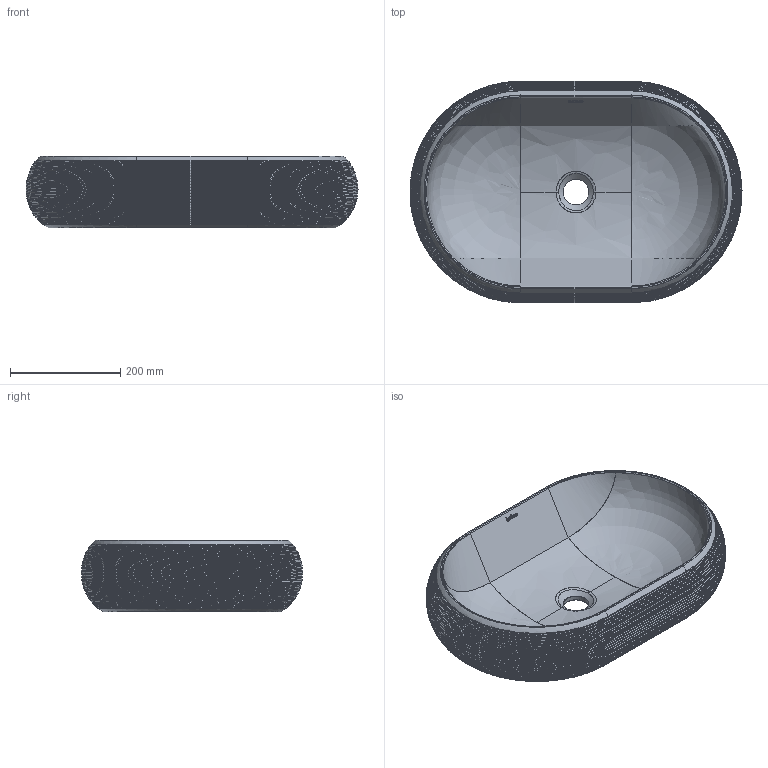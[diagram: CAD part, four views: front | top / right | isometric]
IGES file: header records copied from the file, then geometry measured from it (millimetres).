
Global section: file name: C:\Users\User\Desktop\Modelos 3D\00612_Domed 40 Oval\00612_Domed Oval .igs; native system: Rhinoceros ( May  7 2021 ); preprocessor: Trout Lake IGES 012 May  7 2021; date: 231115.104946; units: millimetre
Bounding box: 601.11 x 401.14 x 130 mm (x, y, z)
Surface area: 727587 mm2 (no closed solid volume)
Topology: 0 solids, 0 shells, 507 faces, 2777 edges, 2763 vertices
Faces by surface type: bspline 507
